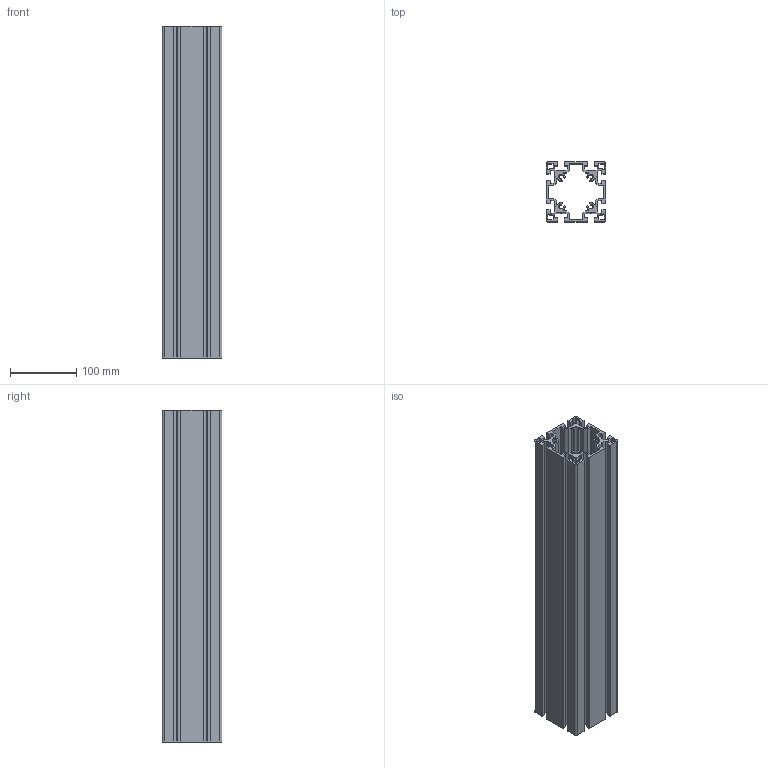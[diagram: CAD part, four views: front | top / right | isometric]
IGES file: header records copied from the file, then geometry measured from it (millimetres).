
Start section: SolidWorks IGES file using analytic representation for surfaces
Global section: file name: C:\Documents and Settings\Administrator\デスクトップ\指定保存後4回目\SolidWorks\SF\SF40・45\Frame\SFF-904.IGS,41HSolidWorks; native system: 2006 by SolidWorks Corporation; preprocessor: SolidWorks 2006 by SolidWorks Corporation; author: Administrator; date: 061218.104713; units: millimetre
Bounding box: 90 x 90 x 500 mm (x, y, z)
Volume: 1088287.6 mm3; surface area: 621497.8 mm2
Topology: 1 solids, 1 shells, 280 faces, 838 edges, 556 vertices
Faces by surface type: plane 170, revolution 110
